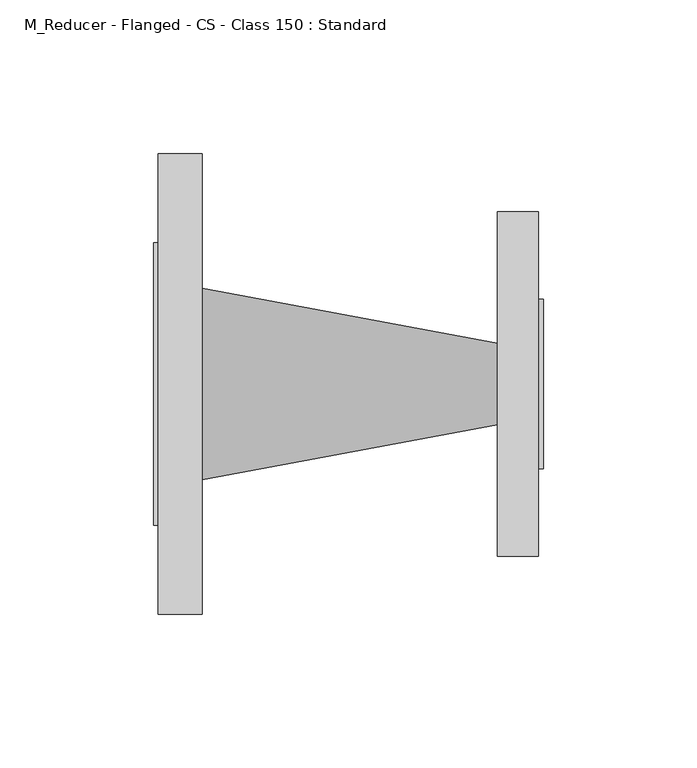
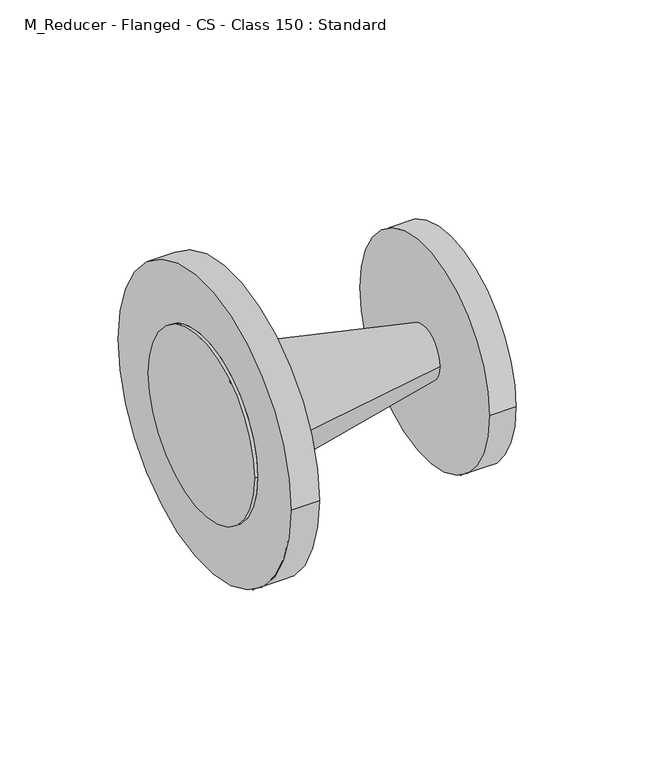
"""IFC4 building model written with IfcOpenShell, lengths in millimetres: pipe fitting geometry, M_Reducer - Flanged - CS - Class 150 : Standard."""

import ifcopenshell
import ifcopenshell.guid

model = None  # the IFC model being written
_history = None  # IfcOwnerHistory: only IFC2X3 demands one
_inside = {}  # id of a spatial element -> (the spatial element, [elements in it])
_under = {}  # id of a project, library or spatial element -> (it, [spatial elements below it])
_declared = {}  # id of a project -> (the project, [libraries it declares])
_typed = {}  # id of a type object -> (the type object, [elements of that type])
_made_of = {}  # id of a material, layer set ... -> (it, [elements and type objects made of it])


def new_model(schema):
    """Start an empty IFC model of exactly this schema.

    Asked for "IFC4X3", IfcOpenShell would pick the latest addendum, in which some entities
    have other attributes; the version numbers below select the first issue.
    IFC2X3 requires an IfcOwnerHistory on every rooted entity: one is made here for all.
    """
    global model, _history
    if schema == "IFC4X3":
        model = ifcopenshell.file(schema_version=(4, 3, 0, 0))
    else:
        model = ifcopenshell.file(schema=schema)
    _inside.clear()
    _under.clear()
    _declared.clear()
    _typed.clear()
    _made_of.clear()
    _history = None
    if model.schema == "IFC2X3":
        org = make("IfcOrganization", Name="unknown")
        user = make(
            "IfcPersonAndOrganization",
            ThePerson=make("IfcPerson", FamilyName="unknown"),
            TheOrganization=org,
        )
        app = make(
            "IfcApplication",
            ApplicationDeveloper=org,
            Version="unknown",
            ApplicationFullName="unknown",
            ApplicationIdentifier="unknown",
        )
        _history = make(
            "IfcOwnerHistory",
            OwningUser=user,
            OwningApplication=app,
            ChangeAction="ADDED",
            CreationDate=0,
        )
    return model


def make(cls, **values):
    """One entity of the class cls with the attributes given. An attribute that is None is left unset."""
    return model.create_entity(
        cls, **{name: value for name, value in values.items() if value is not None}
    )


def rooted(cls, **values):
    """An entity with a GlobalId (a new one), such as an element, a storey or a relation."""
    return make(cls, GlobalId=ifcopenshell.guid.new(), OwnerHistory=_history, **values)


def si_unit(unit_type, name, prefix=None):
    """IfcSIUnit, for example si_unit("LENGTHUNIT", "METRE", prefix="MILLI")."""
    return make("IfcSIUnit", UnitType=unit_type, Prefix=prefix, Name=name)


def assignment(units):
    """IfcUnitAssignment: the units of a project."""
    return None if units is None else make("IfcUnitAssignment", Units=units)


def point(xyz):
    """IfcCartesianPoint."""
    return None if xyz is None else make("IfcCartesianPoint", Coordinates=xyz)


def direction(xyz):
    """IfcDirection."""
    return None if xyz is None else make("IfcDirection", DirectionRatios=xyz)


def frame(location, z_axis=None, x_axis=None):
    """IfcAxis2Placement3D, a coordinate frame: its origin and axes. An axis left out is left unset."""
    return make(
        "IfcAxis2Placement3D",
        Location=point(location),
        Axis=direction(z_axis),
        RefDirection=direction(x_axis),
    )


def origin():
    """The frame at (0, 0, 0) with its axes left unset."""
    return frame((0.0, 0.0, 0.0))


def place(relative_to, where):
    """IfcLocalPlacement: puts the frame where relative to a parent placement (None: the world)."""
    return make(
        "IfcLocalPlacement", PlacementRelTo=relative_to, RelativePlacement=where
    )


def context(
    kind, dimensions, precision=None, world=None, true_north=None, identifier=None
):
    """IfcGeometricRepresentationContext, for example the 3D "Model" context."""
    return make(
        "IfcGeometricRepresentationContext",
        ContextIdentifier=identifier,
        ContextType=kind,
        CoordinateSpaceDimension=dimensions,
        Precision=precision,
        WorldCoordinateSystem=world,
        TrueNorth=true_north,
    )


def project(units=None, contexts=None):
    """IfcProject with its units and contexts."""
    return rooted(
        "IfcProject",
        Name="project",
        RepresentationContexts=contexts,
        UnitsInContext=assignment(units),
    )


def spatial(cls, under=None, at=None, **own):
    """A site, building, storey or space (cls), placed at a placement, below another one or the project."""
    s = rooted(cls, ObjectPlacement=at, **own)
    if under is not None:
        _under.setdefault(under.id(), (under, []))[1].append(s)
    return s


def polyline(points):
    """IfcPolyline through the points."""
    return make("IfcPolyline", Points=[point(p) for p in points])


def circle_curve(where, radius):
    """IfcCircle in the frame where."""
    return make("IfcCircle", Position=where, Radius=radius)


def shape(context_of_items, identifier, shape_type, items):
    """IfcShapeRepresentation: the items that make up one representation, for example the "Body"."""
    return make(
        "IfcShapeRepresentation",
        ContextOfItems=context_of_items,
        RepresentationIdentifier=identifier,
        RepresentationType=shape_type,
        Items=items,
    )


def source(mapping_origin, context_of_items, identifier, shape_type, items):
    """IfcRepresentationMap: a shape defined once, which mapped items show again and again."""
    return make(
        "IfcRepresentationMap",
        MappingOrigin=mapping_origin,
        MappedRepresentation=shape(context_of_items, identifier, shape_type, items),
    )


def transform(
    local_origin,
    x_axis=None,
    y_axis=None,
    z_axis=None,
    scale=None,
    scale2=None,
    scale3=None,
    uniform=True,
):
    """IfcCartesianTransformationOperator3D, or its non-uniform kind. x_axis, y_axis, z_axis: its Axis1, 2, 3."""
    if uniform:
        return make(
            "IfcCartesianTransformationOperator3D",
            Axis1=direction(x_axis),
            Axis2=direction(y_axis),
            LocalOrigin=point(local_origin),
            Scale=scale,
            Axis3=direction(z_axis),
        )
    return make(
        "IfcCartesianTransformationOperator3DnonUniform",
        Axis1=direction(x_axis),
        Axis2=direction(y_axis),
        LocalOrigin=point(local_origin),
        Scale=scale,
        Axis3=direction(z_axis),
        Scale2=scale2,
        Scale3=scale3,
    )


def mapped(mapping_source, mapping_target):
    """IfcMappedItem: shows the shape of a source again, moved by a transform."""
    return make(
        "IfcMappedItem", MappingSource=mapping_source, MappingTarget=mapping_target
    )


def made_of(thing, what):
    """Note that an element or type object is made of a material, layer set ...; save() writes the relation."""
    if what is not None:
        _made_of.setdefault(what.id(), (what, []))[1].append(thing)
    return thing


def element(
    cls,
    number,
    at=None,
    inside=None,
    cuts=None,
    type_object=None,
    material=None,
    context=None,
    identifier="Body",
    shape_type=None,
    held_by="IfcProductDefinitionShape",
    body=None,
    shapes=None,
    **own,
):
    """One element of the class cls, such as IfcWall. Its Tag is "e" and its number.

    at: its placement. inside: the storey or other place that contains it. cuts: it is an
    opening in that element (IfcRelVoidsElement). A single representation is given by context,
    identifier, shape_type and body (its items); several are given by shapes. held_by: the class
    of the entity that holds the representations. save() writes the other relations.
    """
    e = rooted(cls, Tag="e%d" % number, ObjectPlacement=at, **own)
    if body is not None:
        shapes = [shape(context, identifier, shape_type, body)]
    if shapes is not None:
        e.Representation = make(held_by, Representations=shapes)
    if inside is not None:
        _inside.setdefault(inside.id(), (inside, []))[1].append(e)
    if cuts is not None:
        rooted(
            "IfcRelVoidsElement", RelatingBuildingElement=cuts, RelatedOpeningElement=e
        )
    if type_object is not None:
        _typed.setdefault(type_object.id(), (type_object, []))[1].append(e)
    return made_of(e, material)


def aggregate(whole, parts):
    """IfcRelAggregates: a whole, such as a stair, and the parts it consists of."""
    return rooted("IfcRelAggregates", RelatingObject=whole, RelatedObjects=parts)


def save(model, path):
    """Write the relations noted so far, then the file.

    IfcRelAggregates (storeys below a building ...), IfcRelContainedInSpatialStructure (elements
    in a storey), IfcRelDefinesByType, IfcRelAssociatesMaterial and IfcRelDeclares: one each for
    every whole, place, type object, material and project.
    """
    for whole, parts in _under.values():
        aggregate(whole, parts)
    for where, things in _inside.values():
        rooted(
            "IfcRelContainedInSpatialStructure",
            RelatedElements=things,
            RelatingStructure=where,
        )
    for kind, things in _typed.values():
        rooted("IfcRelDefinesByType", RelatedObjects=things, RelatingType=kind)
    for what, things in _made_of.values():
        rooted("IfcRelAssociatesMaterial", RelatedObjects=things, RelatingMaterial=what)
    for by, libraries in _declared.values():
        rooted("IfcRelDeclares", RelatingContext=by, RelatedDefinitions=libraries)
    model.write(path)


def plane_surface(at):
    """IfcPlane: the flat surface through the origin of the frame at, square to its z axis."""
    return make("IfcPlane", Position=at)


def cylinder_surface(at, radius):
    """IfcCylindricalSurface: all points at the distance radius from the z axis of the frame at."""
    return make("IfcCylindricalSurface", Position=at, Radius=radius)


def revolved_surface(curve, axis_point, axis_direction):
    """IfcSurfaceOfRevolution: the curve turned about the line through axis_point along axis_direction."""
    return make(
        "IfcSurfaceOfRevolution",
        SweptCurve=make("IfcArbitraryOpenProfileDef", ProfileType="CURVE", Curve=curve),
        AxisPosition=make("IfcAxis1Placement", Location=point(axis_point), Axis=direction(axis_direction)),
    )


def advanced_brep(points, edges, surfaces, faces):
    """IfcAdvancedBrep: a solid bounded by faces that lie on surfaces and meet in shared edges.

    An edge is (start, end): straight between two places in points (the first is 0);
    or (start, end, curve); or (start, end, curve, False) where it runs against its curve.
    A face is (place in surfaces, loops), or (place, loops, False) where it looks against
    its surface's normal. A loop lists edges by number (the first is 1), with a minus sign
    where the edge is run from its end to its start. The first loop is the outer one.
    """
    corners = [point(p) for p in points]
    vertices = [make("IfcVertexPoint", VertexGeometry=c) for c in corners]
    made = []
    for start, end, *more in edges:
        made.append(
            make(
                "IfcEdgeCurve",
                EdgeStart=vertices[start],
                EdgeEnd=vertices[end],
                EdgeGeometry=more[0] if more else make("IfcPolyline", Points=[corners[start], corners[end]]),
                SameSense=more[1] if len(more) > 1 else True,
            )
        )
    hull = []
    for where, loops, *sense in faces:
        bounds = []
        for j, loop in enumerate(loops):
            ring = [make("IfcOrientedEdge", EdgeElement=made[abs(k) - 1], Orientation=k > 0) for k in loop]
            bounds.append(
                make(
                    "IfcFaceOuterBound" if j == 0 else "IfcFaceBound",
                    Bound=make("IfcEdgeLoop", EdgeList=ring),
                    Orientation=True,
                )
            )
        hull.append(make("IfcAdvancedFace", Bounds=bounds, FaceSurface=surfaces[where], SameSense=sense[0] if sense else True))
    return make("IfcAdvancedBrep", Outer=make("IfcClosedShell", CfsFaces=hull))


def m_reducer_flanged_cs_class_150_standard_55262df0(model_context):
    return source(origin(), model_context, "Body", "AdvancedBrep", [
        advanced_brep(
        [(15.8875, -75.0, 0.0), (15.8875, 75.0, 0.0), (15.8875, 31.1, 0.0), (15.8875, -31.1, 0.0), (1.5875, -75.0, 0.0), (1.5875, 75.0, 0.0), (1.5875, -46.05, 0.0), (1.5875, 46.05, 0.0), (112.0109375, 13.2558594, 0.0), (112.0109375, -13.2558594, 0.0), (125.4125, -56.1554688, 0.0), (125.4125, 56.1554687, 0.0), (125.4125, 27.5976562, 0.0), (125.4125, -27.5976563, 0.0), (112.0109375, -56.1554688, 0.0), (112.0109375, 56.1554687, 0.0), (0.0, -46.05, 0.0), (0.0, 46.05, 0.0), (127.0, -27.5976563, 0.0), (127.0, 27.5976562, 0.0)],
        [
            (0, 1, circle_curve(frame((15.8875, 0.0, 0.0), z_axis=(1.0, 0.0, 0.0), x_axis=(0.0, 1.0, 0.0)), 75.0)),
            (1, 0, circle_curve(frame((15.8875, 0.0, 0.0), z_axis=(1.0, 0.0, 0.0), x_axis=(0.0, 1.0, 0.0)), 75.0)),
            (2, 3, circle_curve(frame((15.8875, 0.0, 0.0), z_axis=(-1.0, 0.0, 0.0), x_axis=(0.0, -1.0, 0.0)), 31.1)),
            (3, 2, circle_curve(frame((15.8875, 0.0, 0.0), z_axis=(-1.0, 0.0, 0.0), x_axis=(0.0, 1.0, 0.0)), 31.1)),
            (4, 5, circle_curve(frame((1.5875, 0.0, 0.0), z_axis=(-1.0, 0.0, 0.0), x_axis=(0.0, 1.0, 0.0)), 75.0)),
            (5, 4, circle_curve(frame((1.5875, 0.0, 0.0), z_axis=(-1.0, 0.0, 0.0), x_axis=(0.0, 1.0, 0.0)), 75.0)),
            (6, 7, circle_curve(frame((1.5875, 0.0, 0.0), z_axis=(1.0, 0.0, 0.0), x_axis=(0.0, 1.0, 0.0)), 46.05)),
            (7, 6, circle_curve(frame((1.5875, 0.0, 0.0), z_axis=(1.0, 0.0, 0.0), x_axis=(0.0, 1.0, 0.0)), 46.05)),
            (0, 4),
            (5, 1),
            (2, 8),
            (8, 9, circle_curve(frame((112.0109375, 0.0, 0.0), z_axis=(-1.0, 0.0, 0.0), x_axis=(0.0, -1.0, 0.0)), 13.2558594)),
            (9, 3),
            (9, 8, circle_curve(frame((112.0109375, 0.0, 0.0), z_axis=(-1.0, 0.0, 0.0), x_axis=(0.0, 1.0, 0.0)), 13.2558594)),
            (10, 11, circle_curve(frame((125.4125, 0.0, 0.0), z_axis=(1.0, 0.0, 0.0), x_axis=(0.0, 1.0, 0.0)), 56.1554687)),
            (11, 10, circle_curve(frame((125.4125, 0.0, 0.0), z_axis=(1.0, 0.0, 0.0), x_axis=(0.0, 1.0, 0.0)), 56.1554687)),
            (12, 13, circle_curve(frame((125.4125, 0.0, 0.0), z_axis=(-1.0, 0.0, 0.0), x_axis=(0.0, 1.0, 0.0)), 27.5976563)),
            (13, 12, circle_curve(frame((125.4125, 0.0, 0.0), z_axis=(-1.0, 0.0, 0.0), x_axis=(0.0, 1.0, 0.0)), 27.5976563)),
            (14, 15, circle_curve(frame((112.0109375, 0.0, 0.0), z_axis=(-1.0, 0.0, 0.0), x_axis=(0.0, 1.0, 0.0)), 56.1554687)),
            (15, 14, circle_curve(frame((112.0109375, 0.0, 0.0), z_axis=(-1.0, 0.0, 0.0), x_axis=(0.0, 1.0, 0.0)), 56.1554687)),
            (10, 14),
            (15, 11),
            (16, 17, circle_curve(frame((0.0, 0.0, 0.0), z_axis=(-1.0, 0.0, 0.0), x_axis=(0.0, 1.0, 0.0)), 46.05)),
            (17, 16, circle_curve(frame((0.0, 0.0, 0.0), z_axis=(-1.0, 0.0, 0.0), x_axis=(0.0, 1.0, 0.0)), 46.05)),
            (17, 7),
            (6, 16),
            (18, 19, circle_curve(frame((127.0, 0.0, 0.0), z_axis=(1.0, 0.0, 0.0), x_axis=(0.0, 1.0, 0.0)), 27.5976563)),
            (19, 18, circle_curve(frame((127.0, 0.0, 0.0), z_axis=(1.0, 0.0, 0.0), x_axis=(0.0, 1.0, 0.0)), 27.5976563)),
            (18, 13),
            (12, 19),
        ],
        [
            plane_surface(frame((15.8875, 75.0, 0.0), z_axis=(1.0, 0.0, 0.0), x_axis=(0.0, 0.0, 1.0))),
            plane_surface(frame((1.5875, 75.0, 0.0), z_axis=(-1.0, 0.0, 0.0), x_axis=(0.0, 0.0, -1.0))),
            cylinder_surface(frame((1.5875, 0.0, 0.0), z_axis=(1.0, 0.0, 0.0), x_axis=(0.0, 1.0, 0.0)), 75.0),
            revolved_surface(polyline([(112.0109375, 13.255859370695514, 0.0), (15.887499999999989, 31.1, 0.0)]), (183.4180619, 0.0, 0.0), (-1.0, 0.0, 0.0)),
            plane_surface(frame((125.4125, 56.1554687, 0.0), z_axis=(1.0, 0.0, 0.0), x_axis=(0.0, 0.0, 1.0))),
            plane_surface(frame((112.0109375, 56.1554687, 0.0), z_axis=(-1.0, 0.0, 0.0), x_axis=(0.0, 0.0, -1.0))),
            cylinder_surface(frame((112.0109375, 0.0, 0.0), z_axis=(1.0, 0.0, 0.0), x_axis=(0.0, 1.0, 0.0)), 56.1554687),
            plane_surface(frame((0.0, 46.05, 0.0), z_axis=(-1.0, 0.0, 0.0), x_axis=(0.0, 0.0, -1.0))),
            cylinder_surface(frame((0.0, 0.0, 0.0), z_axis=(1.0, 0.0, 0.0), x_axis=(0.0, 1.0, 0.0)), 46.05),
            plane_surface(frame((127.0, 27.5976562, 0.0), z_axis=(1.0, 0.0, 0.0), x_axis=(0.0, 0.0, 1.0))),
            cylinder_surface(frame((125.4125, 0.0, 0.0), z_axis=(1.0, 0.0, 0.0), x_axis=(0.0, 1.0, 0.0)), 27.5976563),
        ],
        [
            (0, [[1, 2], [3, 4]]),
            (1, [[5, 6], [7, 8]]),
            (2, [[-1, 9, -6, 10]]),
            (2, [[-2, -10, -5, -9]]),
            (3, [[11, 12, 13, -3]]),
            (3, [[-11, -4, -13, 14]]),
            (4, [[15, 16], [17, 18]]),
            (5, [[19, 20], [-12, -14]]),
            (6, [[-15, 21, -20, 22]]),
            (6, [[-16, -22, -19, -21]]),
            (7, [[23, 24]]),
            (8, [[-24, 25, -7, 26]]),
            (8, [[-23, -26, -8, -25]]),
            (9, [[27, 28]]),
            (10, [[-27, 29, -17, 30]]),
            (10, [[-28, -30, -18, -29]]),
        ],
    ),
    ])


if __name__ == "__main__":
    model = new_model("IFC4")
    model_context = context("Model", 3, world=origin())
    ifc_project = project(units=[si_unit("LENGTHUNIT", "METRE", prefix="MILLI")], contexts=[model_context])
    site = spatial("IfcSite", under=ifc_project)
    building = spatial("IfcBuilding", under=site)
    placement = place(None, origin())
    m_reducer_flanged_cs_class_150_standard_shape = m_reducer_flanged_cs_class_150_standard_55262df0(model_context)
    element("IfcPipeFitting", 1, ObjectType="M_Reducer - Flanged - CS - Class 150 : Standard", at=placement, inside=building, context=model_context, shape_type="MappedRepresentation", body=[
        mapped(m_reducer_flanged_cs_class_150_standard_shape, transform((0.0, 0.0, 0.0), x_axis=(1.0, 0.0, 0.0), y_axis=(0.0, 1.0, 0.0), z_axis=(0.0, 0.0, 1.0))),
    ])
    save(model, "model.ifc")
